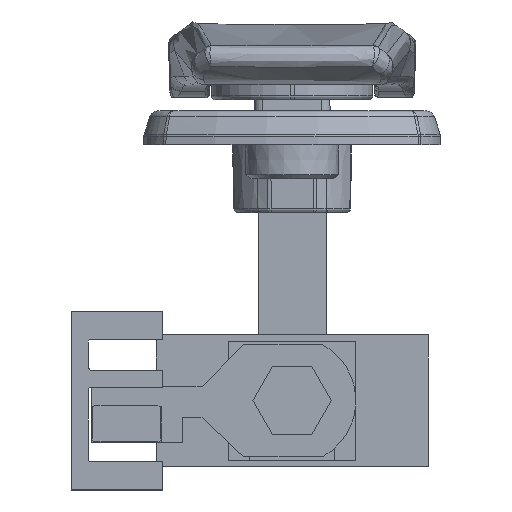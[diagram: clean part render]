
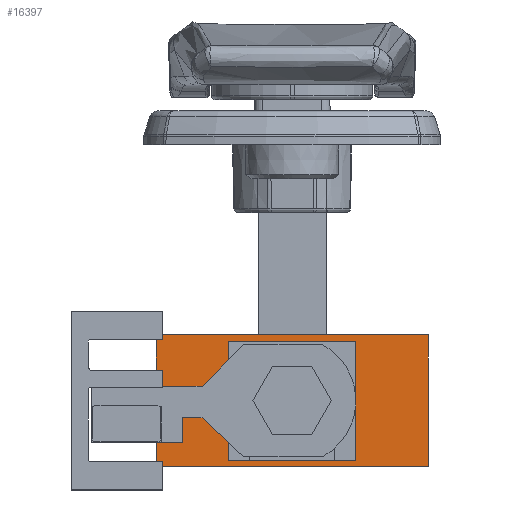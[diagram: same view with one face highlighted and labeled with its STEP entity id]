
A CAD part, front view. The second image highlights one B-rep face of the part: STEP entity #16397.
In plain terms, the highlighted planar face has unit normal (0, -1, 0).
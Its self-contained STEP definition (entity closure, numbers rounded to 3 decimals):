
#2 = CARTESIAN_POINT ( 'NONE',  ( 7., -72.75, 6.25 ) ) ;
#251 = CARTESIAN_POINT ( 'NONE',  ( -7., -72.75, -6.25 ) ) ;
#864 = EDGE_CURVE ( 'NONE', #15451, #23267, #2150, .T. ) ;
#911 = DIRECTION ( 'NONE',  ( 0., 0., -1. ) ) ;
#1056 = EDGE_CURVE ( 'NONE', #15608, #10556, #20120, .T. ) ;
#1142 = CARTESIAN_POINT ( 'NONE',  ( -16., -72.75, 7.75 ) ) ;
#1232 = ORIENTED_EDGE ( 'NONE', *, *, #28269, .F. ) ;
#1711 = FACE_BOUND ( 'NONE', #24133, .T. ) ;
#1865 = FACE_OUTER_BOUND ( 'NONE', #17136, .T. ) ;
#2030 = DIRECTION ( 'NONE',  ( 0., 1., 0. ) ) ;
#2150 = LINE ( 'NONE', #11702, #2379 ) ;
#2379 = VECTOR ( 'NONE', #6996, 1000. ) ;
#3448 = VECTOR ( 'NONE', #21710, 1000. ) ;
#3653 = VERTEX_POINT ( 'NONE', #251 ) ;
#3992 = LINE ( 'NONE', #30306, #9976 ) ;
#4931 = VECTOR ( 'NONE', #18661, 1000. ) ;
#4973 = LINE ( 'NONE', #12477, #3448 ) ;
#5423 = CARTESIAN_POINT ( 'NONE',  ( 7., -72.75, 6.25 ) ) ;
#6234 = CARTESIAN_POINT ( 'NONE',  ( 16., -72.75, 7.75 ) ) ;
#6496 = VERTEX_POINT ( 'NONE', #6234 ) ;
#6626 = EDGE_CURVE ( 'NONE', #26207, #15451, #19239, .T. ) ;
#6996 = DIRECTION ( 'NONE',  ( 1., 0., 0. ) ) ;
#8219 = VECTOR ( 'NONE', #11562, 1000. ) ;
#9976 = VECTOR ( 'NONE', #18692, 1000. ) ;
#10556 = VERTEX_POINT ( 'NONE', #2 ) ;
#11116 = ORIENTED_EDGE ( 'NONE', *, *, #1056, .F. ) ;
#11562 = DIRECTION ( 'NONE',  ( 0., 0., -1. ) ) ;
#11702 = CARTESIAN_POINT ( 'NONE',  ( -16., -72.75, -7.75 ) ) ;
#11718 = CARTESIAN_POINT ( 'NONE',  ( -16., -72.75, 7.75 ) ) ;
#12477 = CARTESIAN_POINT ( 'NONE',  ( 7., -72.75, 6.25 ) ) ;
#12801 = CARTESIAN_POINT ( 'NONE',  ( 16., -72.75, 7.75 ) ) ;
#13228 = CARTESIAN_POINT ( 'NONE',  ( 16., -72.75, -7.75 ) ) ;
#13321 = CARTESIAN_POINT ( 'NONE',  ( -16., -72.75, 7.75 ) ) ;
#15451 = VERTEX_POINT ( 'NONE', #26914 ) ;
#15608 = VERTEX_POINT ( 'NONE', #27075 ) ;
#16004 = ORIENTED_EDGE ( 'NONE', *, *, #23897, .F. ) ;
#16051 = CARTESIAN_POINT ( 'NONE',  ( -7., -72.75, 6.25 ) ) ;
#16159 = CARTESIAN_POINT ( 'NONE',  ( -7., -72.75, -6.25 ) ) ;
#16397 = ADVANCED_FACE ( 'NONE', ( #1711, #1865 ), #20642, .F. ) ;
#17028 = ORIENTED_EDGE ( 'NONE', *, *, #25402, .F. ) ;
#17136 = EDGE_LOOP ( 'NONE', ( #21264, #17028, #29701, #18229 ) ) ;
#17470 = DIRECTION ( 'NONE',  ( 0., 0., 1. ) ) ;
#17856 = VECTOR ( 'NONE', #17470, 1000. ) ;
#18229 = ORIENTED_EDGE ( 'NONE', *, *, #6626, .T. ) ;
#18661 = DIRECTION ( 'NONE',  ( 1., 0., 0. ) ) ;
#18692 = DIRECTION ( 'NONE',  ( 0., 0., -1. ) ) ;
#19239 = LINE ( 'NONE', #11718, #8219 ) ;
#20120 = LINE ( 'NONE', #5423, #17856 ) ;
#20156 = EDGE_CURVE ( 'NONE', #26207, #6496, #25826, .T. ) ;
#20642 = PLANE ( 'NONE',  #26000 ) ;
#20791 = DIRECTION ( 'NONE',  ( 0., 0., 1. ) ) ;
#20855 = VECTOR ( 'NONE', #911, 1000. ) ;
#20961 = ORIENTED_EDGE ( 'NONE', *, *, #26928, .F. ) ;
#21015 = VECTOR ( 'NONE', #29958, 1000. ) ;
#21264 = ORIENTED_EDGE ( 'NONE', *, *, #864, .T. ) ;
#21710 = DIRECTION ( 'NONE',  ( -1., 0., 0. ) ) ;
#23267 = VERTEX_POINT ( 'NONE', #13228 ) ;
#23400 = LINE ( 'NONE', #16159, #4931 ) ;
#23897 = EDGE_CURVE ( 'NONE', #3653, #15608, #23400, .T. ) ;
#24133 = EDGE_LOOP ( 'NONE', ( #1232, #20961, #11116, #16004 ) ) ;
#25402 = EDGE_CURVE ( 'NONE', #6496, #23267, #29455, .T. ) ;
#25699 = CARTESIAN_POINT ( 'NONE',  ( -16., -72.75, 7.75 ) ) ;
#25826 = LINE ( 'NONE', #13321, #21015 ) ;
#26000 = AXIS2_PLACEMENT_3D ( 'NONE', #25699, #2030, #20791 ) ;
#26207 = VERTEX_POINT ( 'NONE', #1142 ) ;
#26914 = CARTESIAN_POINT ( 'NONE',  ( -16., -72.75, -7.75 ) ) ;
#26928 = EDGE_CURVE ( 'NONE', #10556, #27131, #4973, .T. ) ;
#27075 = CARTESIAN_POINT ( 'NONE',  ( 7., -72.75, -6.25 ) ) ;
#27131 = VERTEX_POINT ( 'NONE', #16051 ) ;
#28269 = EDGE_CURVE ( 'NONE', #27131, #3653, #3992, .T. ) ;
#29455 = LINE ( 'NONE', #12801, #20855 ) ;
#29701 = ORIENTED_EDGE ( 'NONE', *, *, #20156, .F. ) ;
#29958 = DIRECTION ( 'NONE',  ( 1., 0., 0. ) ) ;
#30306 = CARTESIAN_POINT ( 'NONE',  ( -7., -72.75, -6.25 ) ) ;
